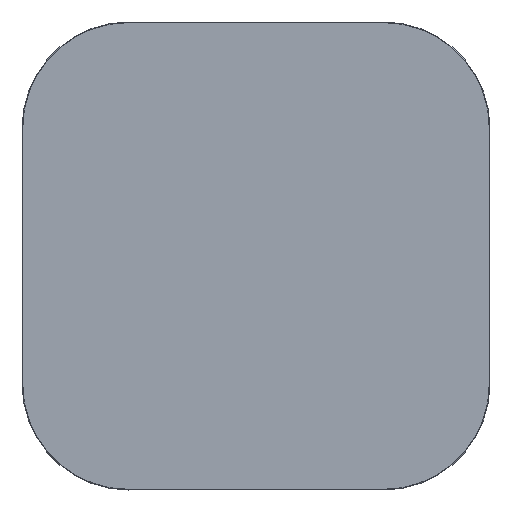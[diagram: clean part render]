
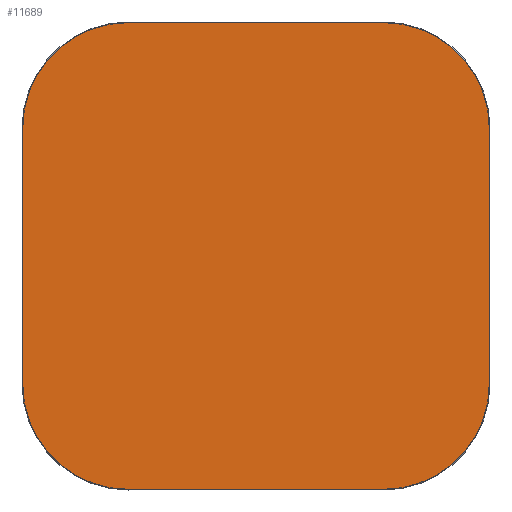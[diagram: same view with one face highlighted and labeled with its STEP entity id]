
A CAD part, top view. The second image highlights one B-rep face of the part: STEP entity #11689.
In plain terms, the highlighted planar face has unit normal (0, 0, 1).
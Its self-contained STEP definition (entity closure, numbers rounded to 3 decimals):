
#11614=CARTESIAN_POINT('',(0.,0.,20.));
#11615=DIRECTION('',(1.,0.,0.));
#11616=DIRECTION('',(0.,0.,1.));
#11617=AXIS2_PLACEMENT_3D('',#11614,#11616,#11615);
#11618=PLANE('',#11617);
#11619=CARTESIAN_POINT('',(-300.,-548.5,20.));
#11620=VERTEX_POINT('',#11619);
#11621=CARTESIAN_POINT('',(300.,-548.5,20.));
#11622=VERTEX_POINT('',#11621);
#11623=CARTESIAN_POINT('',(-300.,-548.5,20.));
#11624=DIRECTION('',(1.,0.,0.));
#11625=VECTOR('',#11624,600.);
#11626=LINE('',#11623,#11625);
#11627=EDGE_CURVE('',#11620,#11622,#11626,.T.);
#11628=ORIENTED_EDGE('E105',*,*,#11627,.T.);
#11629=CARTESIAN_POINT('',(548.5,-300.,20.));
#11630=VERTEX_POINT('',#11629);
#11631=CARTESIAN_POINT('',(300.,-300.,20.));
#11632=DIRECTION('',(0.,-1.,0.));
#11633=DIRECTION('',(0.,-0.,1.));
#11634=AXIS2_PLACEMENT_3D('',#11631,#11633,#11632);
#11635=CIRCLE('',#11634,248.5);
#11636=EDGE_CURVE('',#11622,#11630,#11635,.T.);
#11637=ORIENTED_EDGE('E107',*,*,#11636,.T.);
#11638=CARTESIAN_POINT('',(548.5,300.,20.));
#11639=VERTEX_POINT('',#11638);
#11640=CARTESIAN_POINT('',(548.5,-300.,20.));
#11641=DIRECTION('',(0.,1.,0.));
#11642=VECTOR('',#11641,600.);
#11643=LINE('',#11640,#11642);
#11644=EDGE_CURVE('',#11630,#11639,#11643,.T.);
#11645=ORIENTED_EDGE('E109',*,*,#11644,.T.);
#11646=CARTESIAN_POINT('',(300.,548.5,20.));
#11647=VERTEX_POINT('',#11646);
#11648=CARTESIAN_POINT('',(300.,300.,20.));
#11649=DIRECTION('',(1.,0.,0.));
#11650=DIRECTION('',(0.,0.,1.));
#11651=AXIS2_PLACEMENT_3D('',#11648,#11650,#11649);
#11652=CIRCLE('',#11651,248.5);
#11653=EDGE_CURVE('',#11639,#11647,#11652,.T.);
#11654=ORIENTED_EDGE('E111',*,*,#11653,.T.);
#11655=CARTESIAN_POINT('',(-300.,548.5,20.));
#11656=VERTEX_POINT('',#11655);
#11657=CARTESIAN_POINT('',(300.,548.5,20.));
#11658=DIRECTION('',(-1.,0.,0.));
#11659=VECTOR('',#11658,600.);
#11660=LINE('',#11657,#11659);
#11661=EDGE_CURVE('',#11647,#11656,#11660,.T.);
#11662=ORIENTED_EDGE('E113',*,*,#11661,.T.);
#11663=CARTESIAN_POINT('',(-548.5,300.,20.));
#11664=VERTEX_POINT('',#11663);
#11665=CARTESIAN_POINT('',(-300.,300.,20.));
#11666=DIRECTION('',(0.,1.,0.));
#11667=DIRECTION('',(0.,0.,1.));
#11668=AXIS2_PLACEMENT_3D('',#11665,#11667,#11666);
#11669=CIRCLE('',#11668,248.5);
#11670=EDGE_CURVE('',#11656,#11664,#11669,.T.);
#11671=ORIENTED_EDGE('E115',*,*,#11670,.T.);
#11672=CARTESIAN_POINT('',(-548.5,-300.,20.));
#11673=VERTEX_POINT('',#11672);
#11674=CARTESIAN_POINT('',(-548.5,300.,20.));
#11675=DIRECTION('',(0.,-1.,0.));
#11676=VECTOR('',#11675,600.);
#11677=LINE('',#11674,#11676);
#11678=EDGE_CURVE('',#11664,#11673,#11677,.T.);
#11679=ORIENTED_EDGE('E117',*,*,#11678,.T.);
#11680=CARTESIAN_POINT('',(-300.,-300.,20.));
#11681=DIRECTION('',(-1.,0.,0.));
#11682=DIRECTION('',(0.,0.,1.));
#11683=AXIS2_PLACEMENT_3D('',#11680,#11682,#11681);
#11684=CIRCLE('',#11683,248.5);
#11685=EDGE_CURVE('',#11673,#11620,#11684,.T.);
#11686=ORIENTED_EDGE('E119',*,*,#11685,.T.);
#11687=EDGE_LOOP('',(#11628,#11637,#11645,#11654,#11662,#11671,#11679,#11686));
#11688=FACE_OUTER_BOUND('',#11687,.T.);
#11689=ADVANCED_FACE('F2',(#11688),#11618,.T.);
